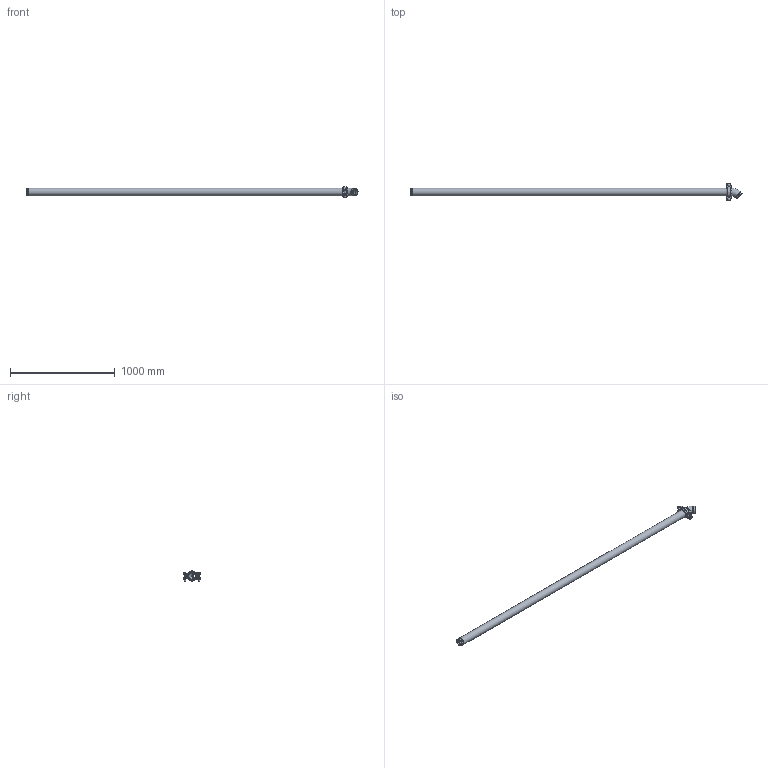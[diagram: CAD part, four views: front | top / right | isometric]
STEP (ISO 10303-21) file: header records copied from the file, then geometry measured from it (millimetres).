
FILE_DESCRIPTION(/* description */ ('VIC LONG RUN FITTING No R14 (OGS)','CAx-IF Rec.Pracs.---Representation and Presentation of Product Manufacturing Information (PMI)---4.0---2014-10-13'),/* implementation_level */ '2;1');
FILE_NAME(/* name */ 'C:\Users\Vjadhav\AppData\Roaming\Autodesk\ApplicationPlugins\Back Up\Victaulic_IPS_Long Run Fittings_No R14 (OGS)\Victaulic_IPS_Long Run Fittings_No R14 (OGS)_2.5 (65).stp',/* time_stamp */ '2020-10-13T18:28:33+06:00',/* author */ ('Vjadhav'),/* organization */ ('Victaulic'),/* preprocessor_version */ 'ST-DEVELOPER v17.2',/* originating_system */ 'Autodesk Inventor 2019',/* authorisation */ '');
FILE_SCHEMA (('AP242_MANAGED_MODEL_BASED_3D_ENGINEERING_MIM_LF { 1 0 10303 442 1 1 4 }'));
Length unit declared in the file: inch
Products named in the file (4): R14-02.5; 011-02.5; 107N-02.5; Pipe_R13-02.5
Assembly tree (3 placements, depth 2):
  R14-02.5
    011-02.5
    107N-02.5
    Pipe_R13-02.5
Bounding box: 3175.19 x 171.45 x 102.11 mm (x, y, z)
Volume: 3750737.7 mm3; surface area: 1413004 mm2
Topology: 3 solids, 3 shells, 149 faces, 387 edges, 260 vertices
Faces by surface type: plane 62, cylinder 57, bspline 18, torus 6, cone 4, sphere 2
Full cylindrical faces by diameter (mm): 12.7 x4, 22.225 x2, 60.325 x1, 62.713 x3, 69.088 x4, 73.025 x7
Entity records: 5532 total; most frequent: CARTESIAN_POINT 1459, DIRECTION 821, ORIENTED_EDGE 774, EDGE_CURVE 387, AXIS2_PLACEMENT_3D 324, VERTEX_POINT 260, EDGE_LOOP 175, LINE 173
